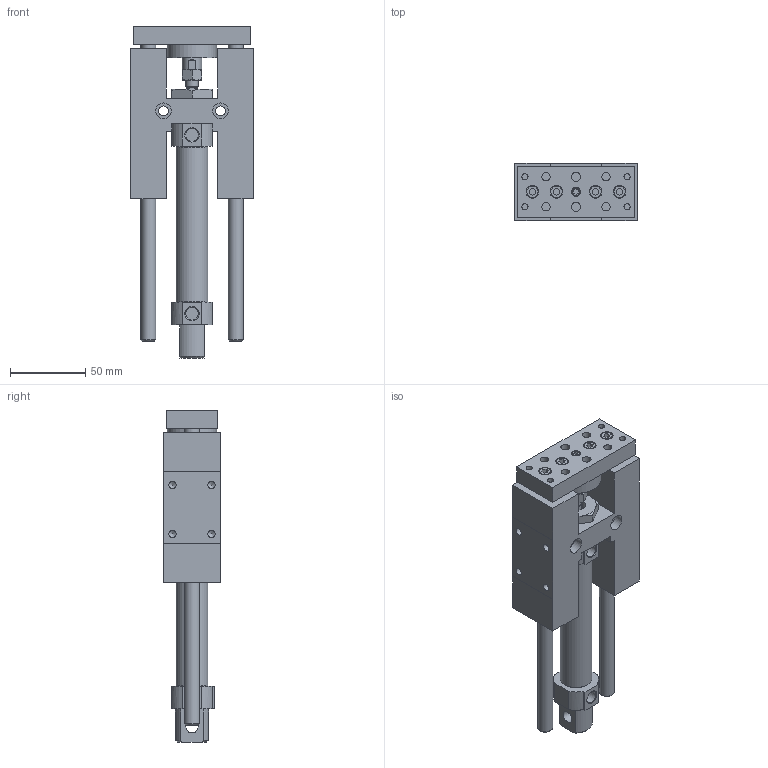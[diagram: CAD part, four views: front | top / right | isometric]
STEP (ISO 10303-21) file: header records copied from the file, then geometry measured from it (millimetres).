
FILE_DESCRIPTION((''),'2;1');
FILE_NAME('I:\3D電子目錄\氣缸\GHB(U)\GHB(U)\GHB(U)20\GHB(U)20x75.stp','2007-10-22T16:13:14',('Administrator'),(''),'Autodesk Inventor 11','Autodesk Inventor 11','');
FILE_SCHEMA(('AUTOMOTIVE_DESIGN { 1 0 10303 214 1 1 1 1 }'));
Length unit declared in the file: millimetre
Products named in the file (1): GHB(U)20
Bounding box: 82 x 38 x 221 mm (x, y, z)
Volume: 318289 mm3; surface area: 65786.4 mm2
Topology: 1 solids, 1 shells, 241 faces, 563 edges, 363 vertices
Faces by surface type: plane 132, bspline 40, cylinder 38, cone 31
Full cylindrical faces by diameter (mm): 4.917 x4, 5 x1, 6 x3, 6.6 x1, 7.5 x4, 8 x3, 8.5 x6, 10 x2, 13 x2, 21.2 x1, 33 x1
Entity records: 6788 total; most frequent: CARTESIAN_POINT 1686, DIRECTION 1006, ORIENTED_EDGE 964, EDGE_CURVE 482, EDGE_LOOP 372, AXIS2_PLACEMENT_3D 366, VERTEX_POINT 348, VECTOR 274
